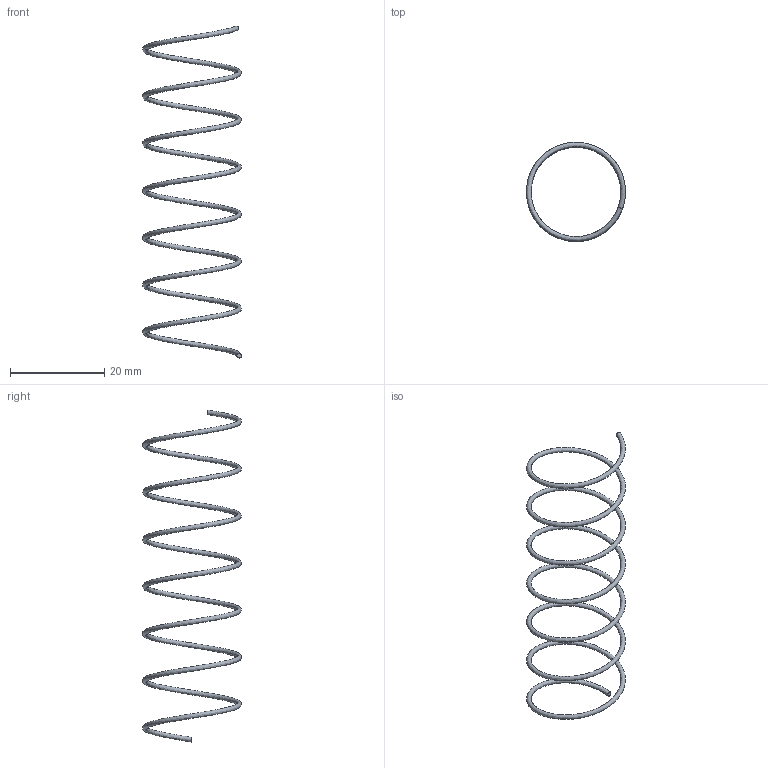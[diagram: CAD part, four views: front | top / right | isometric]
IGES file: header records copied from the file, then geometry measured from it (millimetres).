
Start section: Missler Software BP 521, 31674 Labege Cedex, France Tel   : +33 (0)5 61 00 03 00 Fax   : +33 (0)5 61 00 03 03 Email : sup.topsolid@topsolid.com
Global section: file name: D:\Cuma\25 06 2009\D60.01\D60.01_20\D60.01_2070.igs; native system: TopSolid v605250 Missler Software; preprocessor: IGES preprocessor v100000; date: 030203.153719; units: millimetre
Bounding box: 21 x 21 x 70.44 mm (x, y, z)
Surface area: 1374.3 mm2 (no closed solid volume)
Topology: 0 solids, 0 shells, 3 faces, 27 edges, 26 vertices
Faces by surface type: bspline 3
